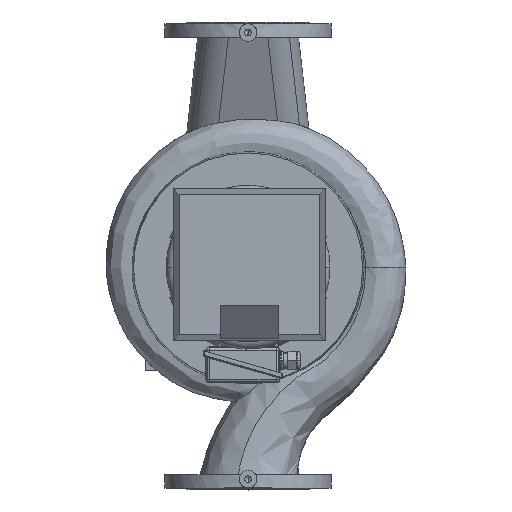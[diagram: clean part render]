
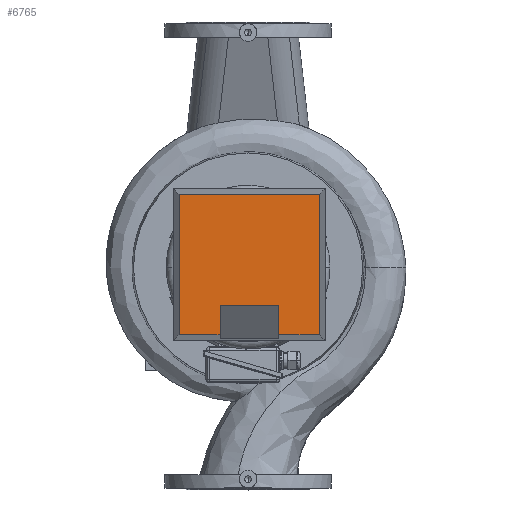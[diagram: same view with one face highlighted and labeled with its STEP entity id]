
A CAD part, top view. The second image highlights one B-rep face of the part: STEP entity #6765.
In plain terms, the highlighted planar face has unit normal (0, 0, 1) as drawn and (0, 1, 0) by its records, which use the part's own axes.
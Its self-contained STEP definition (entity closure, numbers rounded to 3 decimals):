
#6765=ADVANCED_FACE('',(#13031),#13032,.T.);
#6775=EDGE_CURVE('',#13047,#13044,#13048,.T.);
#13031=FACE_OUTER_BOUND('',#26426,.T.);
#13032=PLANE('',#26427);
#13044=VERTEX_POINT('',#26440);
#13047=VERTEX_POINT('',#26445);
#13048=LINE('',#26446,#26447);
#26426=EDGE_LOOP('',(#35463,#35464,#35465,#35466,#35467,#35468,#35469,#35470));
#26427=AXIS2_PLACEMENT_3D('',#35471,#35472,#35473);
#26440=CARTESIAN_POINT('',(-50.0,90.0,199.485));
#26445=CARTESIAN_POINT('',(-50.0,90.0,250.0));
#26446=CARTESIAN_POINT('',(-50.0,90.0,127.834));
#26447=VECTOR('',#35499,1.0);
#35463=ORIENTED_EDGE('',*,*,#36819,.T.);
#35464=ORIENTED_EDGE('',*,*,#36825,.F.);
#35465=ORIENTED_EDGE('',*,*,#36833,.F.);
#35466=ORIENTED_EDGE('',*,*,#36835,.F.);
#35467=ORIENTED_EDGE('',*,*,#36827,.F.);
#35468=ORIENTED_EDGE('',*,*,#36821,.F.);
#35469=ORIENTED_EDGE('',*,*,#6775,.T.);
#35470=ORIENTED_EDGE('',*,*,#36815,.T.);
#35471=CARTESIAN_POINT('',(0.0,90.0,0.0));
#35472=DIRECTION('',(0.0,1.0,-0.0));
#35473=DIRECTION('',(-1.0,0.0,0.0));
#35499=DIRECTION('',(0.0,-0.0,-1.0));
#36815=EDGE_CURVE('',#13044,#38404,#38407,.T.);
#36819=EDGE_CURVE('',#38404,#38410,#38412,.T.);
#36821=EDGE_CURVE('',#13047,#38414,#38415,.T.);
#36825=EDGE_CURVE('',#38420,#38410,#38422,.T.);
#36827=EDGE_CURVE('',#38414,#38424,#38425,.T.);
#36833=EDGE_CURVE('',#38430,#38420,#38432,.T.);
#36835=EDGE_CURVE('',#38424,#38430,#38434,.T.);
#38404=VERTEX_POINT('',#41336);
#38407=LINE('',#41340,#41341);
#38410=VERTEX_POINT('',#41345);
#38412=LINE('',#41348,#41349);
#38414=VERTEX_POINT('',#41351);
#38415=LINE('',#41352,#41353);
#38420=VERTEX_POINT('',#41360);
#38422=LINE('',#41363,#41364);
#38424=VERTEX_POINT('',#41366);
#38425=LINE('',#41367,#41368);
#38430=VERTEX_POINT('',#41376);
#38432=LINE('',#41379,#41380);
#38434=LINE('',#41382,#41383);
#41336=CARTESIAN_POINT('',(50.0,90.0,199.485));
#41340=CARTESIAN_POINT('',(-25.0,90.0,199.485));
#41341=VECTOR('',#42234,1.0);
#41345=CARTESIAN_POINT('',(50.0,90.0,250.0));
#41348=CARTESIAN_POINT('',(50.0,90.0,127.834));
#41349=VECTOR('',#42237,1.0);
#41351=CARTESIAN_POINT('',(-120.0,90.0,250.0));
#41352=CARTESIAN_POINT('',(65.0,90.0,250.0));
#41353=VECTOR('',#42238,1.0);
#41360=CARTESIAN_POINT('',(120.0,90.0,250.0));
#41363=CARTESIAN_POINT('',(65.0,90.0,250.0));
#41364=VECTOR('',#42242,1.0);
#41366=CARTESIAN_POINT('',(-120.0,90.0,10.0));
#41367=CARTESIAN_POINT('',(-120.0,90.0,0.0));
#41368=VECTOR('',#42243,1.0);
#41376=CARTESIAN_POINT('',(120.0,90.0,10.0));
#41379=CARTESIAN_POINT('',(120.0,90.0,0.0));
#41380=VECTOR('',#42248,1.0);
#41382=CARTESIAN_POINT('',(65.0,90.0,10.0));
#41383=VECTOR('',#42249,1.0);
#42234=DIRECTION('',(1.0,0.0,0.0));
#42237=DIRECTION('',(-0.0,0.0,1.0));
#42238=DIRECTION('',(-1.0,0.0,-0.0));
#42242=DIRECTION('',(-1.0,0.0,-0.0));
#42243=DIRECTION('',(-0.0,-0.0,-1.0));
#42248=DIRECTION('',(-0.0,0.0,1.0));
#42249=DIRECTION('',(1.0,-0.0,-0.0));
